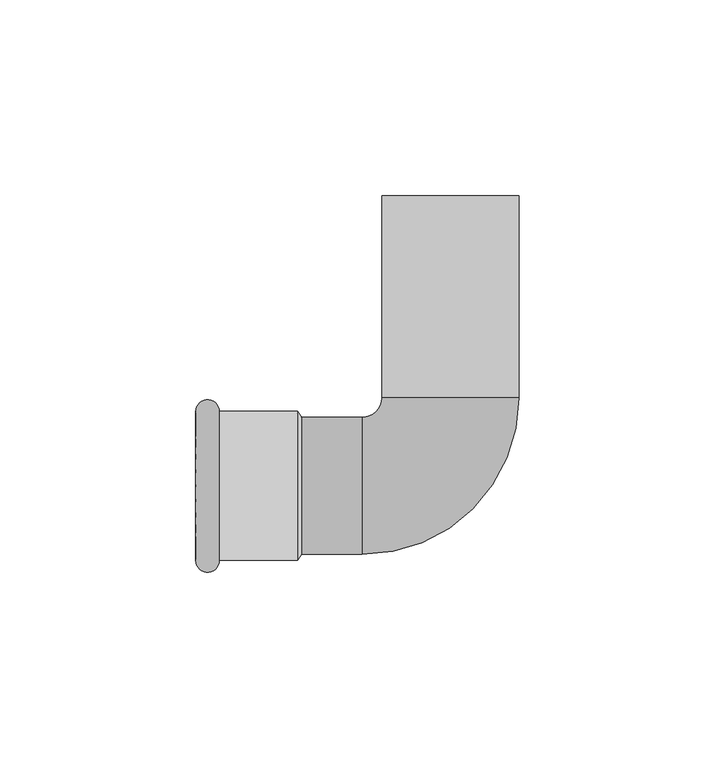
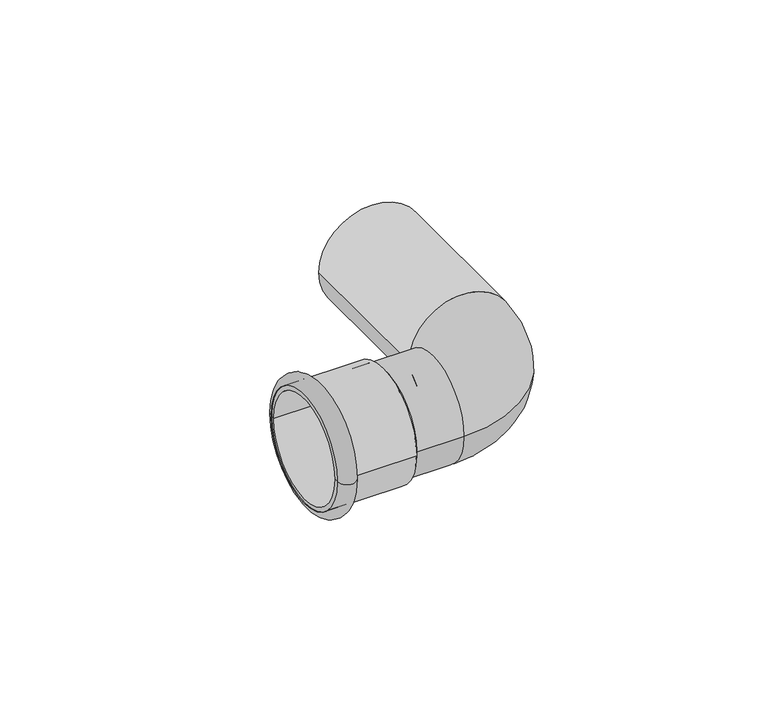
"""IFC4 building model written with IfcOpenShell, lengths in millimetres: pipe fitting geometry, NLRS_50_PIF_UN_Mapress koper bocht met insteekeinde_geb : DN10-100 / d12-108 (45° & 90°)."""

from ifc_helpers import new_model, si_unit, point, frame, origin, place, context, project, spatial, polyline, circle_curve, ellipse_curve, trimmed, source, transform, mapped, element, save
from ifc_brep_helpers import plane_surface, cylinder_surface, revolved_surface, advanced_brep


def pipe_fitting_670eabc0(model_context):
    return source(origin(), model_context, "Body", "AdvancedBrep", [
        advanced_brep(
        [(-65.0, 19.0, 0.0), (-65.0, -19.0, 0.0), (-58.9987073, -19.0, 0.0), (-58.9987073, 19.0, 0.0)],
        [
            (0, 1, circle_curve(frame((-65.0, 0.0, 0.0), z_axis=(-1.0, 0.0, 0.0), x_axis=(0.0, -1.0, 0.0)), 19.0)),
            (1, 2),
            (2, 3, circle_curve(frame((-58.9987073, 0.0, 0.0), z_axis=(1.0, 0.0, 0.0), x_axis=(0.0, -1.0, 0.0)), 19.0)),
            (3, 0),
            (1, 0, circle_curve(frame((-65.0, 0.0, 0.0), z_axis=(-1.0, 0.0, 0.0), x_axis=(0.0, -1.0, 0.0)), 19.0)),
            (3, 2, circle_curve(frame((-58.9987073, 0.0, 0.0), z_axis=(1.0, 0.0, 0.0), x_axis=(0.0, -1.0, 0.0)), 19.0)),
            (2, 1, circle_curve(frame((-61.9993536, -19.0, 0.0), z_axis=(0.0, 0.0, -1.0), x_axis=(-1.0, 0.0, 0.0)), 3.0006464)),
            (0, 3, circle_curve(frame((-61.9993536, 19.0, 0.0), z_axis=(0.0, 0.0, -1.0), x_axis=(-1.0, 0.0, 0.0)), 3.0006464)),
        ],
        [
            revolved_surface(polyline([(-58.9987073, -19.0, 0.0), (-65.0, -19.0, 0.0)]), (-39.0, 0.0, 0.0), (1.0, 0.0, 0.0)),
            revolved_surface(trimmed(ellipse_curve(frame((-61.9993536, -19.0, 0.0), z_axis=(0.0, 0.0, 1.0), x_axis=(-1.0, 0.0, 0.0)), 3.0006464, 3.0006464), [point((-65.0, -19.0, 0.0))], [point((-58.9987073, -19.0, 0.0))], True, "CARTESIAN"), (-39.0, 0.0, 0.0), (1.0, 0.0, 0.0)),
        ],
        [
            (0, [[1, 2, 3, 4]]),
            (0, [[5, -4, 6, -2]]),
            (1, [[-3, 7, -1, 8]]),
            (1, [[-6, -8, -5, -7]]),
        ],
    ),
        advanced_brep(
        [(-65.0, 17.5, 0.0), (-65.0, -17.5, 0.0), (-38.0, -17.5, 0.0), (-38.0, 17.5, 0.0), (-65.0, 19.0, 0.0), (-65.0, -19.0, 0.0), (-39.0, 19.0, 0.0), (-39.0, -19.0, 0.0)],
        [
            (0, 1, circle_curve(frame((-65.0, 0.0, 0.0), z_axis=(-1.0, 0.0, 0.0), x_axis=(0.0, -1.0, 0.0)), 17.5)),
            (1, 2),
            (2, 3, circle_curve(frame((-38.0, 0.0, 0.0), z_axis=(1.0, 0.0, 0.0), x_axis=(0.0, -1.0, 0.0)), 17.5)),
            (3, 0),
            (1, 0, circle_curve(frame((-65.0, 0.0, 0.0), z_axis=(-1.0, 0.0, 0.0), x_axis=(0.0, -1.0, 0.0)), 17.5)),
            (3, 2, circle_curve(frame((-38.0, 0.0, 0.0), z_axis=(1.0, 0.0, 0.0), x_axis=(0.0, -1.0, 0.0)), 17.5)),
            (4, 5, circle_curve(frame((-65.0, 0.0, 0.0), z_axis=(-1.0, 0.0, 0.0), x_axis=(0.0, -1.0, 0.0)), 19.0)),
            (5, 1),
            (0, 4),
            (5, 4, circle_curve(frame((-65.0, 0.0, 0.0), z_axis=(-1.0, 0.0, 0.0), x_axis=(0.0, -1.0, 0.0)), 19.0)),
            (6, 7, circle_curve(frame((-39.0, 0.0, 0.0), z_axis=(-1.0, 0.0, 0.0), x_axis=(0.0, -1.0, 0.0)), 19.0)),
            (7, 5),
            (4, 6),
            (7, 6, circle_curve(frame((-39.0, 0.0, 0.0), z_axis=(-1.0, 0.0, 0.0), x_axis=(0.0, -1.0, 0.0)), 19.0)),
            (2, 7),
            (6, 3),
        ],
        [
            revolved_surface(polyline([(-38.0, -17.5, 0.0), (-65.0, -17.5, 0.0)]), (-39.0, 0.0, 0.0), (1.0, 0.0, 0.0)),
            plane_surface(frame((-65.0, 0.0, 0.0), z_axis=(-1.0, 0.0, 0.0), x_axis=(0.0, -1.0, 0.0))),
            cylinder_surface(frame((-39.0, 0.0, 0.0), z_axis=(1.0, 0.0, 0.0), x_axis=(0.0, -1.0, 0.0)), 19.0),
            revolved_surface(polyline([(-39.0, -19.0, 0.0), (-38.0, -17.5, 0.0)]), (-39.0, 0.0, 0.0), (1.0, 0.0, 0.0)),
        ],
        [
            (0, [[1, 2, 3, 4]]),
            (0, [[5, -4, 6, -2]]),
            (1, [[7, 8, -1, 9]]),
            (1, [[10, -9, -5, -8]]),
            (2, [[11, 12, -7, 13]]),
            (2, [[14, -13, -10, -12]]),
            (3, [[-3, 15, -11, 16]]),
            (3, [[-6, -16, -14, -15]]),
        ],
    ),
        advanced_brep(
        [(-39.0, -17.5, 0.0), (-39.0, 17.5, 0.0), (-22.5, -17.5, 0.0), (-22.5, 17.5, 0.0), (-17.5, 22.5, 0.0), (17.5, 22.5, 0.0), (17.5, 74.0, 0.0), (-17.5, 74.0, 0.0)],
        [
            (0, 1, circle_curve(frame((-39.0, 0.0, 0.0), z_axis=(-1.0, 0.0, 0.0), x_axis=(0.0, 1.0, 0.0)), 17.5)),
            (1, 0, circle_curve(frame((-39.0, 0.0, 0.0), z_axis=(-1.0, 0.0, 0.0), x_axis=(0.0, 1.0, 0.0)), 17.5)),
            (0, 2),
            (2, 3, circle_curve(frame((-22.5, 0.0, 0.0), z_axis=(-1.0, 0.0, 0.0), x_axis=(0.0, 1.0, 0.0)), 17.5)),
            (3, 1),
            (3, 2, circle_curve(frame((-22.5, 0.0, 0.0), z_axis=(-1.0, 0.0, 0.0), x_axis=(0.0, 1.0, 0.0)), 17.5)),
            (4, 3, circle_curve(frame((-22.5, 22.5, 0.0), z_axis=(0.0, 0.0, -1.0), x_axis=(0.0, -1.0, 0.0)), 5.0)),
            (2, 5, circle_curve(frame((-22.5, 22.5, 0.0), z_axis=(0.0, 0.0, 1.0), x_axis=(0.0, -1.0, 0.0)), 40.0)),
            (5, 4, circle_curve(frame((0.0, 22.5, 0.0), z_axis=(0.0, -1.0, 0.0), x_axis=(-1.0, 0.0, 0.0)), 17.5)),
            (4, 5, circle_curve(frame((0.0, 22.5, 0.0), z_axis=(0.0, -1.0, 0.0), x_axis=(-1.0, 0.0, 0.0)), 17.5)),
            (6, 7, circle_curve(frame((0.0, 74.0, 0.0), z_axis=(0.0, 1.0, 0.0), x_axis=(-1.0, 0.0, 0.0)), 17.5)),
            (7, 6, circle_curve(frame((0.0, 74.0, 0.0), z_axis=(0.0, 1.0, 0.0), x_axis=(-1.0, 0.0, 0.0)), 17.5)),
            (5, 6),
            (7, 4),
        ],
        [
            plane_surface(frame((-39.0, 0.0, 0.0), z_axis=(-1.0, 0.0, 0.0), x_axis=(0.0, 0.0, 1.0))),
            cylinder_surface(frame((-39.0, 0.0, 0.0), z_axis=(-1.0, 0.0, 0.0), x_axis=(0.0, 1.0, 0.0)), 17.5),
            revolved_surface(trimmed(ellipse_curve(frame((-22.5, 0.0, 0.0), z_axis=(-1.0, 0.0, 0.0), x_axis=(0.0, 1.0, 0.0)), 17.5, 17.5), [point((-22.5, -17.5, 0.0))], [point((-22.5, 17.5, 0.0))], True, "CARTESIAN"), (-22.5, 22.5, 0.0), (0.0, 0.0, 1.0)),
            revolved_surface(trimmed(ellipse_curve(frame((-22.5, 0.0, 0.0), z_axis=(-1.0, 0.0, 0.0), x_axis=(0.0, 1.0, 0.0)), 17.5, 17.5), [point((-22.5, 17.5, 0.0))], [point((-22.5, -17.5, 0.0))], True, "CARTESIAN"), (-22.5, 22.5, 0.0), (0.0, 0.0, 1.0)),
            plane_surface(frame((0.0, 74.0, 0.0), z_axis=(0.0, 1.0, 0.0), x_axis=(0.0, 0.0, 1.0))),
            cylinder_surface(frame((0.0, 22.5, 0.0), z_axis=(0.0, -1.0, 0.0), x_axis=(-1.0, 0.0, 0.0)), 17.5),
        ],
        [
            (0, [[1, 2]]),
            (1, [[-1, 3, 4, 5]]),
            (1, [[-2, -5, 6, -3]]),
            (2, [[7, -4, 8, 9]]),
            (3, [[-8, -6, -7, 10]]),
            (4, [[11, 12]]),
            (5, [[-9, 13, -12, 14]]),
            (5, [[-10, -14, -11, -13]]),
        ],
    ),
    ])


if __name__ == "__main__":
    model = new_model("IFC4")
    model_context = context("Model", 3, world=origin())
    ifc_project = project(units=[si_unit("LENGTHUNIT", "METRE", prefix="MILLI")], contexts=[model_context])
    site = spatial("IfcSite", under=ifc_project)
    building = spatial("IfcBuilding", under=site)
    placement = place(None, origin())
    pipe_fitting_shape = pipe_fitting_670eabc0(model_context)
    element("IfcPipeFitting", 1, ObjectType="NLRS_50_PIF_UN_Mapress koper bocht met insteekeinde_geb : DN10-100 / d12-108 (45° & 90°)", at=placement, inside=building, context=model_context, shape_type="MappedRepresentation", body=[
        mapped(pipe_fitting_shape, transform((0.0, 0.0, 0.0), x_axis=(1.0, 0.0, 0.0), y_axis=(0.0, 1.0, 0.0), z_axis=(0.0, 0.0, 1.0))),
    ])
    save(model, "model.ifc")
